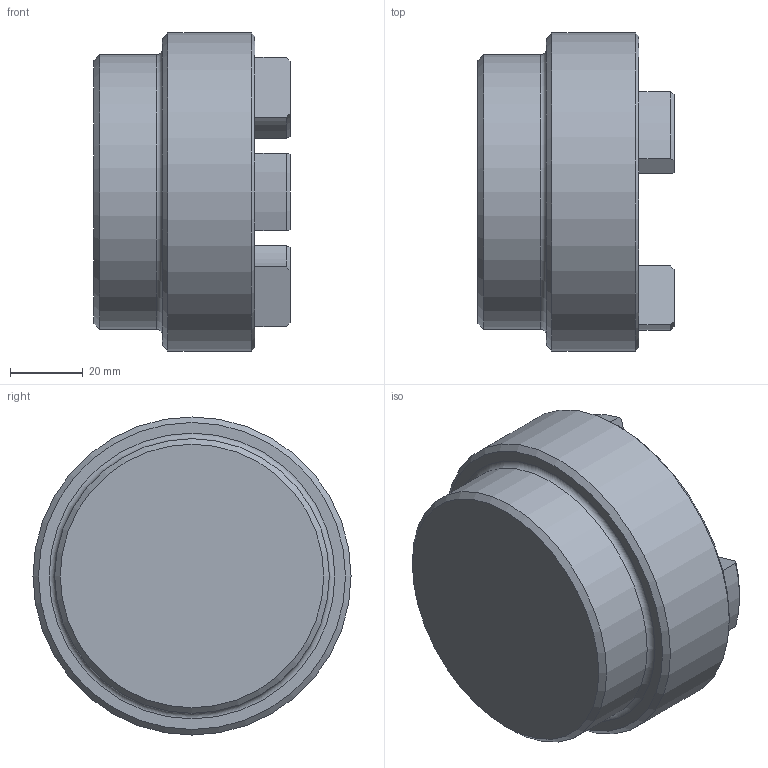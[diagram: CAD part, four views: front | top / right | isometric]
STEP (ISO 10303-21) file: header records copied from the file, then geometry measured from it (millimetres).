
FILE_DESCRIPTION (( 'STEP AP203' ), '1' );
FILE_NAME ('RC3.step', '2024-07-24T12:42:16', ( 'Adlan' ), ( '' ), 'SwSTEP 2.0', 'SolidWorks 2013', '' );
FILE_SCHEMA (( 'CONFIG_CONTROL_DESIGN' ));
Length unit declared in the file: inch
Products named in the file (1): RC3
Bounding box: 53.85 x 87.38 x 87.38 mm (x, y, z)
Volume: 196870.8 mm3; surface area: 28094.9 mm2
Topology: 1 solids, 1 shells, 58 faces, 141 edges, 87 vertices
Faces by surface type: cylinder 23, plane 13, torus 13, cone 9
Full cylindrical faces by diameter (mm): 75.438 x1, 87.376 x1
Entity records: 1787 total; most frequent: CARTESIAN_POINT 333, DIRECTION 314, ORIENTED_EDGE 268, EDGE_CURVE 134, AXIS2_PLACEMENT_3D 127, VERTEX_POINT 86, CIRCLE 68, EDGE_LOOP 66
